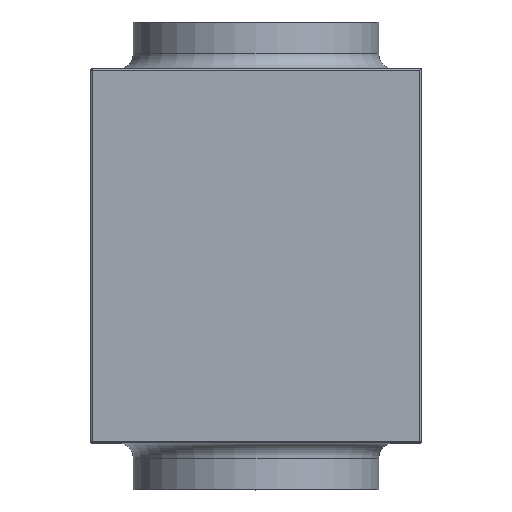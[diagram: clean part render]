
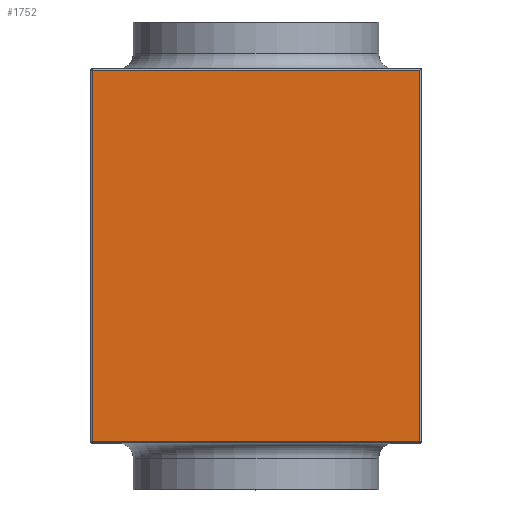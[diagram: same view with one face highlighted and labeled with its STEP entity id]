
A CAD part, top view. The second image highlights one B-rep face of the part: STEP entity #1752.
In plain terms, the highlighted planar face has unit normal (0, 0, 1).
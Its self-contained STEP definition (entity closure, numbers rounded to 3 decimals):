
#173=FACE_OUTER_BOUND('',#281,.T.);
#281=EDGE_LOOP('',(#1272,#1273,#1274,#1275));
#375=LINE('',#2520,#584);
#379=LINE('',#2534,#588);
#382=LINE('',#2540,#591);
#386=LINE('',#2546,#595);
#584=VECTOR('',#2058,10.);
#588=VECTOR('',#2074,10.);
#591=VECTOR('',#2081,10.);
#595=VECTOR('',#2089,10.);
#797=VERTEX_POINT('',#2491);
#803=VERTEX_POINT('',#2513);
#808=VERTEX_POINT('',#2529);
#809=VERTEX_POINT('',#2533);
#961=EDGE_CURVE('',#803,#797,#375,.T.);
#968=EDGE_CURVE('',#809,#808,#379,.T.);
#972=EDGE_CURVE('',#808,#803,#382,.T.);
#976=EDGE_CURVE('',#797,#809,#386,.T.);
#1272=ORIENTED_EDGE('',*,*,#968,.F.);
#1273=ORIENTED_EDGE('',*,*,#976,.F.);
#1274=ORIENTED_EDGE('',*,*,#961,.F.);
#1275=ORIENTED_EDGE('',*,*,#972,.F.);
#1656=PLANE('',#1889);
#1752=ADVANCED_FACE('',(#173),#1656,.T.);
#1889=AXIS2_PLACEMENT_3D('',#2562,#2111,#2112);
#2058=DIRECTION('',(0.,1.,0.));
#2074=DIRECTION('',(0.,-1.,0.));
#2081=DIRECTION('',(-1.,0.,0.));
#2089=DIRECTION('',(1.,0.,0.));
#2111=DIRECTION('center_axis',(0.,0.,1.));
#2112=DIRECTION('ref_axis',(1.,0.,0.));
#2491=CARTESIAN_POINT('',(-210.,238.,192.5));
#2513=CARTESIAN_POINT('',(-210.,-238.,192.5));
#2520=CARTESIAN_POINT('',(-210.,0.,192.5));
#2529=CARTESIAN_POINT('',(210.,-238.,192.5));
#2533=CARTESIAN_POINT('',(210.,238.,192.5));
#2534=CARTESIAN_POINT('',(210.,0.,192.5));
#2540=CARTESIAN_POINT('',(-106.,-238.,192.5));
#2546=CARTESIAN_POINT('',(-106.,238.,192.5));
#2562=CARTESIAN_POINT('Origin',(-212.,0.,192.5));
